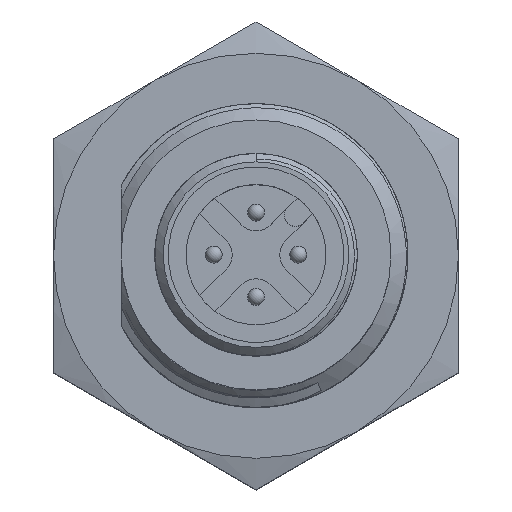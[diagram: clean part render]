
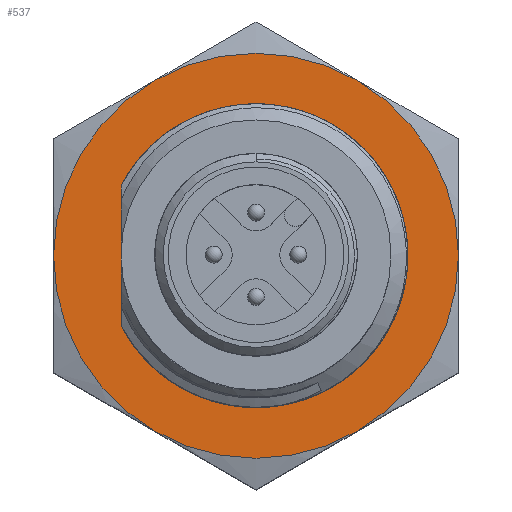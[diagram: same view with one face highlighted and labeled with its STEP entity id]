
A CAD part, top view. The second image highlights one B-rep face of the part: STEP entity #537.
In plain terms, the highlighted planar face has unit normal (0, 0, 1).
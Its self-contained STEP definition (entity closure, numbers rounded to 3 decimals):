
#171=PLANE('',#3891);
#326=CIRCLE('',#3885,12.);
#327=CIRCLE('',#3886,12.);
#328=CIRCLE('',#3887,12.);
#329=CIRCLE('',#3888,12.);
#330=CIRCLE('',#3889,12.);
#331=CIRCLE('',#3890,12.);
#537=ADVANCED_FACE('',(#809),#171,.T.);
#809=FACE_OUTER_BOUND('',#1041,.T.);
#1041=EDGE_LOOP('',(#2467,#2468,#2469,#2470,#2471,#2472));
#2467=ORIENTED_EDGE('',*,*,#3421,.F.);
#2468=ORIENTED_EDGE('',*,*,#3422,.F.);
#2469=ORIENTED_EDGE('',*,*,#3423,.F.);
#2470=ORIENTED_EDGE('',*,*,#3424,.F.);
#2471=ORIENTED_EDGE('',*,*,#3425,.F.);
#2472=ORIENTED_EDGE('',*,*,#3426,.F.);
#2861=VERTEX_POINT('',#148874);
#2865=VERTEX_POINT('',#148892);
#2869=VERTEX_POINT('',#148910);
#2873=VERTEX_POINT('',#148928);
#2877=VERTEX_POINT('',#148946);
#2879=VERTEX_POINT('',#148961);
#3421=EDGE_CURVE('',#2861,#2865,#326,.T.);
#3422=EDGE_CURVE('',#2879,#2861,#327,.T.);
#3423=EDGE_CURVE('',#2877,#2879,#328,.T.);
#3424=EDGE_CURVE('',#2873,#2877,#329,.T.);
#3425=EDGE_CURVE('',#2869,#2873,#330,.T.);
#3426=EDGE_CURVE('',#2865,#2869,#331,.T.);
#3885=AXIS2_PLACEMENT_3D('',#148966,#4464,#4465);
#3886=AXIS2_PLACEMENT_3D('',#148967,#4466,#4467);
#3887=AXIS2_PLACEMENT_3D('',#148968,#4468,#4469);
#3888=AXIS2_PLACEMENT_3D('',#148969,#4470,#4471);
#3889=AXIS2_PLACEMENT_3D('',#148970,#4472,#4473);
#3890=AXIS2_PLACEMENT_3D('',#148971,#4474,#4475);
#3891=AXIS2_PLACEMENT_3D('',#148972,#4476,#4477);
#4464=DIRECTION('',(0.,0.,-1.));
#4465=DIRECTION('',(-1.,0.,0.));
#4466=DIRECTION('',(0.,0.,-1.));
#4467=DIRECTION('',(-0.5,-0.866,0.));
#4468=DIRECTION('',(0.,0.,-1.));
#4469=DIRECTION('',(0.5,-0.866,0.));
#4470=DIRECTION('',(0.,0.,-1.));
#4471=DIRECTION('',(1.,0.,0.));
#4472=DIRECTION('',(0.,0.,-1.));
#4473=DIRECTION('',(0.5,0.866,0.));
#4474=DIRECTION('',(0.,0.,-1.));
#4475=DIRECTION('',(-0.5,0.866,0.));
#4476=DIRECTION('',(0.,0.,1.));
#4477=DIRECTION('',(0.866,0.5,0.));
#148874=CARTESIAN_POINT('',(-12.,0.,25.));
#148892=CARTESIAN_POINT('',(-6.,10.392,25.));
#148910=CARTESIAN_POINT('',(6.,10.392,25.));
#148928=CARTESIAN_POINT('',(12.,0.,25.));
#148946=CARTESIAN_POINT('',(6.,-10.392,25.));
#148961=CARTESIAN_POINT('',(-6.,-10.392,25.));
#148966=CARTESIAN_POINT('',(0.,0.,
25.));
#148967=CARTESIAN_POINT('',(0.,0.,
25.));
#148968=CARTESIAN_POINT('',(0.,0.,
25.));
#148969=CARTESIAN_POINT('',(0.,0.,
25.));
#148970=CARTESIAN_POINT('',(0.,0.,
25.));
#148971=CARTESIAN_POINT('',(0.,0.,
25.));
#148972=CARTESIAN_POINT('',(-4.832,-18.032,25.));
